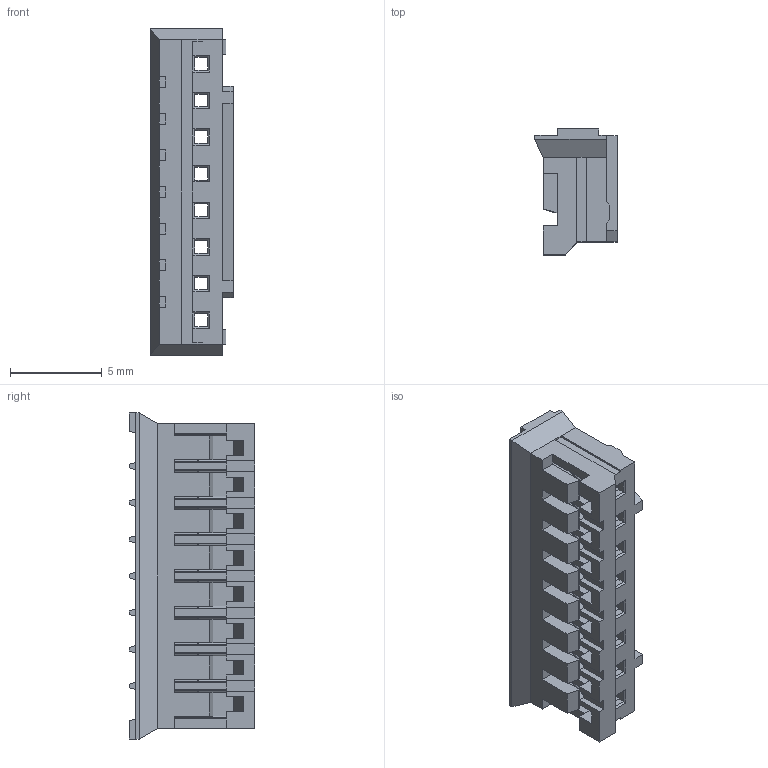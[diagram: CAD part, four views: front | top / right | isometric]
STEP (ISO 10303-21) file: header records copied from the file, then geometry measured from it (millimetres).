
FILE_DESCRIPTION((''),'2;1');
FILE_NAME('8PIN_ASM','2010-03-10T',('12206423'),(''),'PRO/ENGINEER BY PARAMETRIC TECHNOLOGY CORPORATION, 2007450','PRO/ENGINEER BY PARAMETRIC TECHNOLOGY CORPORATION, 2007450','');
FILE_SCHEMA(('CONFIG_CONTROL_DESIGN'));
Length unit declared in the file: millimetre
Products named in the file (1): 8PIN_ASM
Bounding box: 4.5 x 6.85 x 17.8 mm (x, y, z)
Volume: 192.7 mm3; surface area: 798.1 mm2
Topology: 1 solids, 1 shells, 550 faces, 1490 edges, 910 vertices
Faces by surface type: plane 422, cylinder 96, bspline 16, torus 16
Entity records: 17096 total; most frequent: CARTESIAN_POINT 3190, ORIENTED_EDGE 2980, DIRECTION 2782, EDGE_CURVE 1490, VECTOR 1266, LINE 1266, VERTEX_POINT 910, AXIS2_PLACEMENT_3D 758
